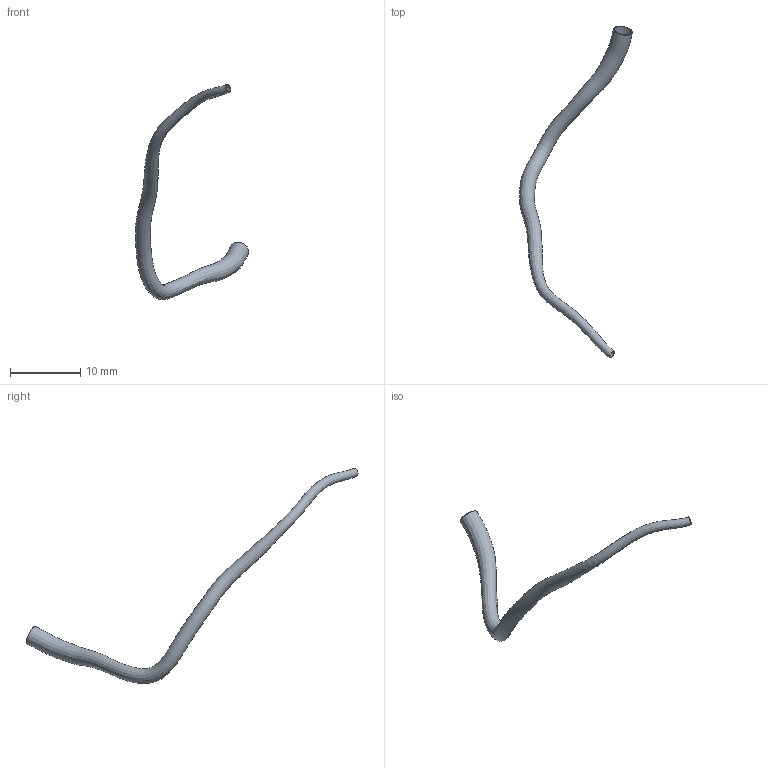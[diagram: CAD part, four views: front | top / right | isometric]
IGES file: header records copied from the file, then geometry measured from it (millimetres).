
Global section: file name: C:\Documents and Settings\Administrator\Desktop\FDA-Pig\Domestic LCA\Pig_000011\lcx.seg.es.igs; native system: Rhinoceros ( May 19 2006 ); preprocessor: Trout Lake IGES 012 May 19 2006; date: 111205.184018; units: centimetre
Bounding box: 16.1 x 47.33 x 30.66 mm (x, y, z)
Surface area: 813.1 mm2 (no closed solid volume)
Topology: 0 solids, 0 shells, 4 faces, 13 edges, 10 vertices
Faces by surface type: bspline 4
